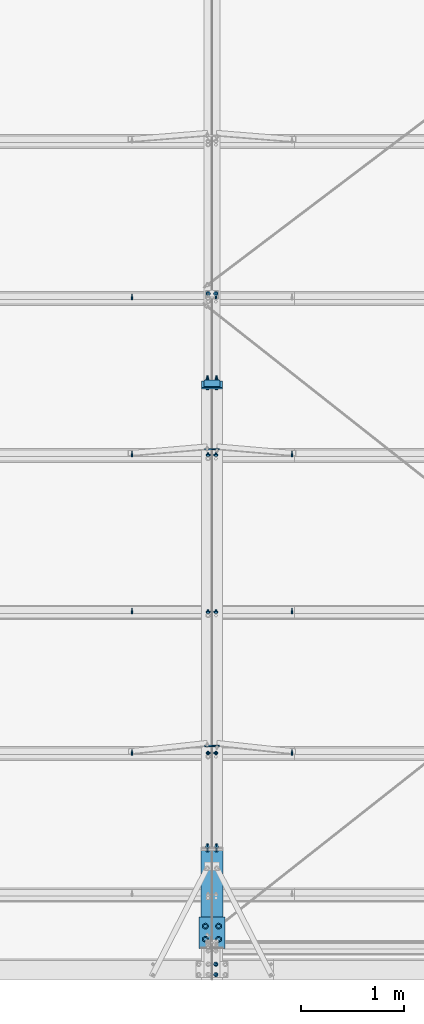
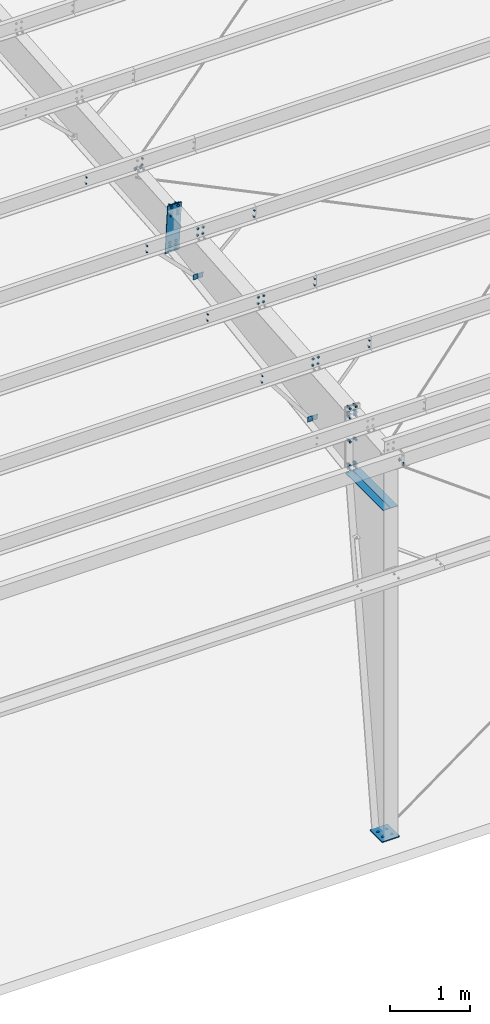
# One storey, part 76 of 185: 22 mechanical fasteners, 9 discrete accessories, 12 elements without a shape of their own.
"""IFC2X3 building model written with IfcOpenShell, lengths in millimetres."""

from ifc_helpers import new_model, si_unit, frame, origin_with_axes, origin_2d_with_axis, place, context, subcontext, project, spatial, polyline, rectangle, circle, outline, extrude, source, transform, mapped, material, type_object, element, aggregate, save


model = new_model("IFC2X3")

# Units and contexts
model_context = context("Model", 3, precision=1e-05, world=origin_with_axes())
body_context = subcontext(model_context, "Body", "Model", "MODEL_VIEW")
ifc_project = project(units=[si_unit("LENGTHUNIT", "METRE", prefix="MILLI"), si_unit("AREAUNIT", "SQUARE_METRE"), si_unit("VOLUMEUNIT", "CUBIC_METRE"), si_unit("MASSUNIT", "GRAM", prefix="KILO"), si_unit("TIMEUNIT", "SECOND"), si_unit("PLANEANGLEUNIT", "RADIAN"), si_unit("SOLIDANGLEUNIT", "STERADIAN"), si_unit("THERMODYNAMICTEMPERATUREUNIT", "DEGREE_CELSIUS"), si_unit("LUMINOUSINTENSITYUNIT", "LUMEN")], contexts=[model_context])

# Site, building, storey
site_placement = place(None, origin_with_axes())
site = spatial("IfcSite", under=ifc_project, at=site_placement, Name="Undefined", CompositionType="ELEMENT")
building_placement = place(site_placement, origin_with_axes())
building = spatial("IfcBuilding", under=site, at=building_placement, Name="Undefined", CompositionType="ELEMENT")
storey_placement = place(building_placement, origin_with_axes())
storey = spatial("IfcBuildingStorey", under=building, at=storey_placement, Name="Undefined", CompositionType="ELEMENT", Elevation=0.0)

# Assembly, discrete accessories
assembly_1_placement = place(storey_placement, origin_with_axes())
assembly_1 = element("IfcElementAssembly", 1, at=assembly_1_placement, inside=storey, Name="Steel Assembly", AssemblyPlace="NOTDEFINED", PredefinedType="RIGID_FRAME")
ifc_material_1 = material(Name="STEEL/55")
discrete_accessory_type_1 = type_object("IfcDiscreteAccessoryType", Name="Stiff")
discrete_accessory_1_placement = place(assembly_1_placement, frame((30153.76875, 312.674, 5067.48165112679), z_axis=(-1.0, 0.0, 0.0), x_axis=(0.0, 1.0, 0.0)))
discrete_accessory_1 = element("IfcDiscreteAccessory", 2, at=discrete_accessory_1_placement, type_object=discrete_accessory_type_1, material=ifc_material_1, Name="Stiff", ObjectType="FL3/8\"X4\"", context=body_context, shape_type="SweptSolid", body=[
    extrude(rectangle(XDim=9.525, YDim=101.6, at=origin_2d_with_axis()), frame((939.799999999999, 0.0, 0.0), z_axis=(-1.0, 0.0, 0.0), x_axis=(0.0, -1.0, 0.0)), (0.0, 0.0, 1.0), 939.8),
])
discrete_accessory_2_placement = place(assembly_1_placement, frame((30044.23125, 312.674, 5067.48165112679), z_axis=(-1.0, 0.0, 0.0), x_axis=(0.0, 1.0, 0.0)))
discrete_accessory_2 = element("IfcDiscreteAccessory", 3, at=discrete_accessory_2_placement, type_object=discrete_accessory_type_1, material=ifc_material_1, Name="Stiff", ObjectType="FL3/8\"X4\"", context=body_context, shape_type="SweptSolid", body=[
    extrude(rectangle(XDim=9.525, YDim=101.6, at=origin_2d_with_axis()), frame((939.799999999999, 0.0, 0.0), z_axis=(-1.0, 0.0, 0.0), x_axis=(0.0, -1.0, 0.0)), (0.0, 0.0, 1.0), 939.8),
])

# Assembly, mechanical fastener
assembly_2_placement = place(storey_placement, origin_with_axes())
assembly_2 = element("IfcElementAssembly", 4, at=assembly_2_placement, inside=storey, Name="Steel Assembly", AssemblyPlace="NOTDEFINED", PredefinedType="RIGID_FRAME")
ifc_material_2 = material(Name="Undefined")
discrete_accessory_type_2 = type_object("IfcDiscreteAccessoryType", Name="Bolt assembly")
shared_shape_1 = source(origin_with_axes(), body_context, "Body", "SweptSolid", [
    extrude(circle(Radius=7.14374971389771, at=origin_2d_with_axis()), frame((0.0, -1.59000001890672, 0.0), z_axis=(0.0, 1.0, 0.0), x_axis=(1.0, 0.0, 0.0)), (0.0, 0.0, 1.0), 3.3),
    extrude(circle(Radius=13.4937496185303, at=origin_2d_with_axis()), frame((0.0, -5.5587500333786, 0.0), z_axis=(0.0, 1.0, 0.0), x_axis=(1.0, 0.0, 0.0)), (0.0, 0.0, 1.0), 4.0),
    extrude(circle(Radius=22.2250003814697, at=origin_2d_with_axis()), frame((0.0, 1.5900000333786, 0.0), z_axis=(0.0, 1.0, 0.0), x_axis=(1.0, 0.0, 0.0)), (0.0, 0.0, 1.0), 7.9),
    extrude(outline(polyline([(12.8316099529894, 0.0), (6.4158049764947, 11.1125001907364), (-6.4158049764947, 11.1125001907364), (-12.8316099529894, 0.0), (-6.4158049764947, -11.1125001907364), (6.4158049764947, -11.1125001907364), (12.8316099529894, 0.0)])), frame((0.0, 9.5275000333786, 0.0), z_axis=(0.0, 1.0, 0.0), x_axis=(1.0, 0.0, 0.0)), (0.0, 0.0, 1.0), 12.3),
])
mechanical_fastener_1_placement = place(assembly_2_placement, frame((30137.1, 5071.32183882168, 6467.63407037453), z_axis=(1.0, 0.0, 0.0), x_axis=(0.0, 0.0830454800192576, -0.996545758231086)))
mechanical_fastener_1 = element("IfcMechanicalFastener", 5, at=mechanical_fastener_1_placement, type_object=discrete_accessory_type_2, material=ifc_material_2, Name="Bolt assembly", NominalDiameter=12.6999998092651, NominalLength=38.0999984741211, context=body_context, shape_type="MappedRepresentation", body=[
    mapped(shared_shape_1, transform((0.0, 0.0, 0.0))),
    mapped(shared_shape_1, transform((101.599998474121, 0.0, 0.0))),
])
aggregate(assembly_2, [mechanical_fastener_1])

assembly_3_placement = place(storey_placement, origin_with_axes())
assembly_3 = element("IfcElementAssembly", 6, at=assembly_3_placement, inside=storey, Name="Steel Assembly", AssemblyPlace="NOTDEFINED", PredefinedType="RIGID_FRAME")
mechanical_fastener_2_placement = place(assembly_3_placement, frame((30060.9, 5071.32183882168, 6467.63407037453), z_axis=(1.0, 0.0, 0.0), x_axis=(0.0, 0.0830454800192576, -0.996545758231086)))
mechanical_fastener_2 = element("IfcMechanicalFastener", 7, at=mechanical_fastener_2_placement, type_object=discrete_accessory_type_2, material=ifc_material_2, Name="Bolt assembly", NominalDiameter=12.6999998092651, NominalLength=38.0999984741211, context=body_context, shape_type="MappedRepresentation", body=[
    mapped(shared_shape_1, transform((0.0, 0.0, 0.0))),
    mapped(shared_shape_1, transform((101.599998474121, 0.0, 0.0))),
])

assembly_4_placement = place(storey_placement, origin_with_axes())
assembly_4 = element("IfcElementAssembly", 8, at=assembly_4_placement, inside=storey, Name="Steel Assembly", AssemblyPlace="NOTDEFINED", PredefinedType="RIGID_FRAME")
mechanical_fastener_3_placement = place(assembly_4_placement, frame((30137.1, 3552.58610327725, 6341.07275882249), z_axis=(1.0, 0.0, 0.0), x_axis=(0.0, 0.0830454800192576, -0.996545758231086)))
mechanical_fastener_3 = element("IfcMechanicalFastener", 9, at=mechanical_fastener_3_placement, type_object=discrete_accessory_type_2, material=ifc_material_2, Name="Bolt assembly", NominalDiameter=12.6999998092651, NominalLength=38.0999984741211, context=body_context, shape_type="MappedRepresentation", body=[
    mapped(shared_shape_1, transform((0.0, 0.0, 0.0))),
    mapped(shared_shape_1, transform((101.599998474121, 0.0, 0.0))),
])
aggregate(assembly_4, [mechanical_fastener_3])

assembly_5_placement = place(storey_placement, origin_with_axes())
assembly_5 = element("IfcElementAssembly", 10, at=assembly_5_placement, inside=storey, Name="Steel Assembly", AssemblyPlace="NOTDEFINED", PredefinedType="RIGID_FRAME")
mechanical_fastener_4_placement = place(assembly_5_placement, frame((30060.9, 3552.58610327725, 6341.07275882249), z_axis=(1.0, 0.0, 0.0), x_axis=(0.0, 0.0830454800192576, -0.996545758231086)))
mechanical_fastener_4 = element("IfcMechanicalFastener", 11, at=mechanical_fastener_4_placement, type_object=discrete_accessory_type_2, material=ifc_material_2, Name="Bolt assembly", NominalDiameter=12.6999998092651, NominalLength=38.0999984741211, context=body_context, shape_type="MappedRepresentation", body=[
    mapped(shared_shape_1, transform((0.0, 0.0, 0.0))),
    mapped(shared_shape_1, transform((101.599998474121, 0.0, 0.0))),
])

assembly_6_placement = place(storey_placement, origin_with_axes())
assembly_6 = element("IfcElementAssembly", 12, at=assembly_6_placement, inside=storey, Name="Steel Assembly", AssemblyPlace="NOTDEFINED", PredefinedType="RIGID_FRAME")
mechanical_fastener_5_placement = place(assembly_6_placement, frame((30137.1, 2185.7239412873, 6227.16757842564), z_axis=(1.0, 0.0, 0.0), x_axis=(0.0, 0.0830454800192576, -0.996545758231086)))
mechanical_fastener_5 = element("IfcMechanicalFastener", 13, at=mechanical_fastener_5_placement, type_object=discrete_accessory_type_2, material=ifc_material_2, Name="Bolt assembly", NominalDiameter=12.6999998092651, NominalLength=38.0999984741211, context=body_context, shape_type="MappedRepresentation", body=[
    mapped(shared_shape_1, transform((0.0, 0.0, 0.0))),
    mapped(shared_shape_1, transform((101.599998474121, 0.0, 0.0))),
])
aggregate(assembly_6, [mechanical_fastener_5])

assembly_7_placement = place(storey_placement, origin_with_axes())
assembly_7 = element("IfcElementAssembly", 14, at=assembly_7_placement, inside=storey, Name="Steel Assembly", AssemblyPlace="NOTDEFINED", PredefinedType="RIGID_FRAME")
mechanical_fastener_6_placement = place(assembly_7_placement, frame((30060.9, 2185.7239412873, 6227.16757842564), z_axis=(1.0, 0.0, 0.0), x_axis=(0.0, 0.0830454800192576, -0.996545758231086)))
mechanical_fastener_6 = element("IfcMechanicalFastener", 15, at=mechanical_fastener_6_placement, type_object=discrete_accessory_type_2, material=ifc_material_2, Name="Bolt assembly", NominalDiameter=12.6999998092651, NominalLength=38.0999984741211, context=body_context, shape_type="MappedRepresentation", body=[
    mapped(shared_shape_1, transform((0.0, 0.0, 0.0))),
    mapped(shared_shape_1, transform((101.599998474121, 0.0, 0.0))),
])

# Discrete accessory
discrete_accessory_type_3 = type_object("IfcDiscreteAccessoryType", Name="Base Plate")
discrete_accessory_3_placement = place(assembly_1_placement, frame((30099.0, 304.8, 7.93749999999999), z_axis=(1.0, 0.0, 0.0), x_axis=(0.0, 1.0, 0.0)))
discrete_accessory_3 = element("IfcDiscreteAccessory", 16, at=discrete_accessory_3_placement, type_object=discrete_accessory_type_3, material=ifc_material_1, Name="Base Plate", ObjectType="FL5/8\"X10\"", context=body_context, shape_type="SweptSolid", body=[
    extrude(rectangle(XDim=15.875, YDim=254.0, at=origin_2d_with_axis()), frame((304.909695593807, 0.0, 0.0), z_axis=(-1.0, 0.0, 0.0), x_axis=(0.0, -1.0, 0.0)), (0.0, 0.0, 1.0), 304.9),
])

# Assembly, discrete accessories
assembly_8_placement = place(storey_placement, origin_with_axes())
assembly_8 = element("IfcElementAssembly", 17, at=assembly_8_placement, inside=storey, Name="Steel Assembly", AssemblyPlace="NOTDEFINED", PredefinedType="RIGID_FRAME")
discrete_accessory_type_4 = type_object("IfcDiscreteAccessoryType", Name="FLANGE BRACE FLIP")
discrete_accessory_4_placement = place(assembly_8_placement, frame((30101.381, 5133.6523214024, 5699.10123572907), z_axis=(0.0, -0.0830454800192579, 0.996545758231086), x_axis=(1.0, 0.0, 0.0)))
discrete_accessory_4 = element("IfcDiscreteAccessory", 18, at=discrete_accessory_4_placement, type_object=discrete_accessory_type_4, material=ifc_material_1, Name="FLANGE BRACE FLIP", ObjectType="PL1/8\"X2 3/4\"", context=body_context, shape_type="SweptSolid", body=[
    extrude(rectangle(XDim=3.416, YDim=85.725, at=origin_2d_with_axis()), frame((69.8499999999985, 0.0, 0.0), z_axis=(-1.0, 0.0, 0.0), x_axis=(0.0, -1.0, 0.0)), (0.0, 0.0, 1.0), 69.8),
])
discrete_accessory_5_placement = place(assembly_8_placement, frame((30096.619, 5133.6523214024, 5699.10123572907), z_axis=(0.0, -0.0830454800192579, 0.996545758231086), x_axis=(-1.0, 0.0, 0.0)))
discrete_accessory_5 = element("IfcDiscreteAccessory", 19, at=discrete_accessory_5_placement, type_object=discrete_accessory_type_4, material=ifc_material_1, Name="FLANGE BRACE FLIP", ObjectType="PL1/8\"X2 3/4\"", context=body_context, shape_type="SweptSolid", body=[
    extrude(rectangle(XDim=3.416, YDim=85.725, at=origin_2d_with_axis()), frame((69.8499999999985, 0.0, 0.0), z_axis=(-1.0, 0.0, 0.0), x_axis=(0.0, -1.0, 0.0)), (0.0, 0.0, 1.0), 69.8),
])
discrete_accessory_6_placement = place(assembly_8_placement, frame((30101.381, 2264.17630960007, 5265.17211501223), z_axis=(0.0, -0.0830454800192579, 0.996545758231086), x_axis=(1.0, 0.0, 0.0)))
discrete_accessory_6 = element("IfcDiscreteAccessory", 20, at=discrete_accessory_6_placement, type_object=discrete_accessory_type_4, material=ifc_material_1, Name="FLANGE BRACE FLIP", ObjectType="PL1/8\"X2 3/4\"", context=body_context, shape_type="SweptSolid", body=[
    extrude(rectangle(XDim=3.416, YDim=85.725, at=origin_2d_with_axis()), frame((69.8499999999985, 0.0, 0.0), z_axis=(-1.0, 0.0, 0.0), x_axis=(0.0, -1.0, 0.0)), (0.0, 0.0, 1.0), 69.8),
])
discrete_accessory_7_placement = place(assembly_8_placement, frame((30096.619, 2264.17630960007, 5265.17211501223), z_axis=(0.0, -0.0830454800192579, 0.996545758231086), x_axis=(-1.0, 0.0, 0.0)))
discrete_accessory_7 = element("IfcDiscreteAccessory", 21, at=discrete_accessory_7_placement, type_object=discrete_accessory_type_4, material=ifc_material_1, Name="FLANGE BRACE FLIP", ObjectType="PL1/8\"X2 3/4\"", context=body_context, shape_type="SweptSolid", body=[
    extrude(rectangle(XDim=3.416, YDim=85.725, at=origin_2d_with_axis()), frame((69.8499999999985, 0.0, 0.0), z_axis=(-1.0, 0.0, 0.0), x_axis=(0.0, -1.0, 0.0)), (0.0, 0.0, 1.0), 69.8),
])

# Assembly, mechanical fastener
assembly_9_placement = place(storey_placement, origin_with_axes())
assembly_9 = element("IfcElementAssembly", 22, at=assembly_9_placement, inside=storey, Name="Steel Assembly", AssemblyPlace="NOTDEFINED", PredefinedType="RIGID_FRAME")
shared_shape_2 = source(origin_with_axes(), body_context, "Body", "SweptSolid", [
    extrude(circle(Radius=7.14374971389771, at=origin_2d_with_axis()), frame((0.0, -4.65999985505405, 0.0), z_axis=(0.0, 1.0, 0.0), x_axis=(1.0, 0.0, 0.0)), (0.0, 0.0, 1.0), 4.8),
    extrude(circle(Radius=7.14374971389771, at=origin_2d_with_axis()), frame((0.0, -0.0238014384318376, 0.0), z_axis=(0.0, 1.0, 0.0), x_axis=(1.0, 0.0, 0.0)), (0.0, 0.0, 1.0), 8.0),
    extrude(outline(polyline([(12.8316099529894, 0.0), (6.4158049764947, 11.1125001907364), (-6.4158049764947, 11.1125001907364), (-12.8316099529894, 0.0), (-6.4158049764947, -11.1125001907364), (6.4158049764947, -11.1125001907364), (12.8316099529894, 0.0)])), frame((0.0, -12.697499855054, 0.0), z_axis=(0.0, 1.0, 0.0), x_axis=(1.0, 0.0, 0.0)), (0.0, 0.0, 1.0), 7.9),
    extrude(circle(Radius=6.34999990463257, at=origin_2d_with_axis()), frame((0.0, -4.75999985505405, 0.0), z_axis=(0.0, 1.0, 0.0), x_axis=(1.0, 0.0, 0.0)), (0.0, 0.0, 1.0), 50.8),
    extrude(circle(Radius=22.2250003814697, at=origin_2d_with_axis()), frame((0.0, 7.95019856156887, 0.0), z_axis=(0.0, 1.0, 0.0), x_axis=(1.0, 0.0, 0.0)), (0.0, 0.0, 1.0), 7.9),
    extrude(outline(polyline([(12.8316099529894, 0.0), (6.4158049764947, 11.1125001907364), (-6.4158049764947, 11.1125001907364), (-12.8316099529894, 0.0), (-6.4158049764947, -11.1125001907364), (6.4158049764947, -11.1125001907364), (12.8316099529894, 0.0)])), frame((0.0, 15.8876985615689, 0.0), z_axis=(0.0, 1.0, 0.0), x_axis=(1.0, 0.0, 0.0)), (0.0, 0.0, 1.0), 12.3),
])
mechanical_fastener_7_placement = place(assembly_9_placement, frame((30099.0, 6640.68209888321, 6445.4858411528), z_axis=(-1.0, 0.0, 0.0), x_axis=(0.0, 0.996545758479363, 0.0830454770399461)))
mechanical_fastener_7 = element("IfcMechanicalFastener", 23, at=mechanical_fastener_7_placement, type_object=discrete_accessory_type_2, material=ifc_material_2, Name="Bolt assembly", NominalDiameter=12.6999998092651, NominalLength=50.7999992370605, context=body_context, shape_type="MappedRepresentation", body=[
    mapped(shared_shape_2, transform((0.0, 0.0, -38.0999984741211))),
    mapped(shared_shape_2, transform((0.0, 0.0, 38.0999984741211))),
])

assembly_10_placement = place(storey_placement, origin_with_axes())
assembly_10 = element("IfcElementAssembly", 24, at=assembly_10_placement, inside=storey, Name="Steel Assembly", AssemblyPlace="NOTDEFINED", PredefinedType="RIGID_FRAME")
shared_shape_3 = source(origin_with_axes(), body_context, "Body", "SweptSolid", [
    extrude(circle(Radius=7.14374971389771, at=origin_2d_with_axis()), frame((0.0, 0.0, 0.0), z_axis=(0.0, 1.0, 0.0), x_axis=(1.0, 0.0, 0.0)), (0.0, 0.0, 1.0), 4.9),
    extrude(outline(polyline([(12.8316099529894, 0.0), (6.4158049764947, 11.1125001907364), (-6.4158049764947, 11.1125001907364), (-12.8316099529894, 0.0), (-6.4158049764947, -11.1125001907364), (6.4158049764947, -11.1125001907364), (12.8316099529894, 0.0)])), frame((0.0, 4.76000382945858, 0.0), z_axis=(0.0, 1.0, 0.0), x_axis=(1.0, 0.0, 0.0)), (0.0, 0.0, 1.0), 12.3),
])
mechanical_fastener_8_placement = place(assembly_10_placement, frame((30137.1, 6590.05757436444, 6594.19538192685), z_axis=(1.0, 0.0, 0.0), x_axis=(0.0, 0.0830454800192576, -0.996545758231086)))
mechanical_fastener_8 = element("IfcMechanicalFastener", 25, at=mechanical_fastener_8_placement, type_object=discrete_accessory_type_2, material=ifc_material_2, Name="Bolt assembly", NominalDiameter=12.6999998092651, NominalLength=50.7999992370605, context=body_context, shape_type="MappedRepresentation", body=[
    mapped(shared_shape_3, transform((0.0, 0.0, 0.0))),
    mapped(shared_shape_3, transform((101.599998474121, 0.0, 0.0))),
])
aggregate(assembly_10, [mechanical_fastener_8])

assembly_11_placement = place(storey_placement, origin_with_axes())
assembly_11 = element("IfcElementAssembly", 26, at=assembly_11_placement, inside=storey, Name="Steel Assembly", AssemblyPlace="NOTDEFINED", PredefinedType="RIGID_FRAME")
shared_shape_4 = source(origin_with_axes(), body_context, "Body", "SweptSolid", [
    extrude(circle(Radius=7.14374971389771, at=origin_2d_with_axis()), frame((0.0, -1.4900000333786, 0.0), z_axis=(0.0, 1.0, 0.0), x_axis=(1.0, 0.0, 0.0)), (0.0, 0.0, 1.0), 3.2),
    extrude(circle(Radius=7.14374971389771, at=origin_2d_with_axis()), frame((0.0, -1.4900000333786, 0.0), z_axis=(0.0, 1.0, 0.0), x_axis=(1.0, 0.0, 0.0)), (0.0, 0.0, 1.0), 3.2),
    extrude(outline(polyline([(10.9985221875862, 0.0), (5.4992610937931, 9.52499961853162), (-5.4992610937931, 9.52499961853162), (-10.9985221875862, 0.0), (-5.4992610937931, -9.52499961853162), (5.4992610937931, -9.52499961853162), (10.9985221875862, 0.0)])), frame((0.0, -11.1149996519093, 0.0), z_axis=(0.0, 1.0, 0.0), x_axis=(1.0, 0.0, 0.0)), (0.0, 0.0, 1.0), 9.5),
    extrude(circle(Radius=6.34999990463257, at=origin_2d_with_axis()), frame((0.0, -1.59000001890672, 0.0), z_axis=(0.0, 1.0, 0.0), x_axis=(1.0, 0.0, 0.0)), (0.0, 0.0, 1.0), 38.1),
    extrude(outline(polyline([(12.8316099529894, 0.0), (6.4158049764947, 11.1125001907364), (-6.4158049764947, 11.1125001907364), (-12.8316099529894, 0.0), (-6.4158049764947, -11.1125001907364), (6.4158049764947, -11.1125001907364), (12.8316099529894, 0.0)])), frame((0.0, 1.5900000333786, 0.0), z_axis=(0.0, 1.0, 0.0), x_axis=(1.0, 0.0, 0.0)), (0.0, 0.0, 1.0), 12.3),
])
mechanical_fastener_9_placement = place(assembly_11_placement, frame((29324.3, 6590.05757436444, 6594.19538192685), z_axis=(1.0, 0.0, 0.0), x_axis=(0.0, 0.0830454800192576, -0.996545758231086)))
mechanical_fastener_9 = element("IfcMechanicalFastener", 27, at=mechanical_fastener_9_placement, type_object=discrete_accessory_type_2, material=ifc_material_2, Name="Bolt assembly", NominalDiameter=12.6999998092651, NominalLength=38.0999984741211, context=body_context, shape_type="MappedRepresentation", body=[
    mapped(shared_shape_4, transform((0.0, 0.0, 0.0))),
    mapped(shared_shape_4, transform((101.599998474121, 0.0, 0.0))),
])
aggregate(assembly_11, [mechanical_fastener_9])

# Mechanical fastener
mechanical_fastener_10_placement = place(assembly_3_placement, frame((30873.7, 5071.32183882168, 6467.63407037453), z_axis=(1.0, 0.0, 0.0), x_axis=(0.0, 0.0830454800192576, -0.996545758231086)))
mechanical_fastener_10 = element("IfcMechanicalFastener", 28, at=mechanical_fastener_10_placement, type_object=discrete_accessory_type_2, material=ifc_material_2, Name="Bolt assembly", NominalDiameter=12.6999998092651, NominalLength=38.0999984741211, context=body_context, shape_type="MappedRepresentation", body=[
    mapped(shared_shape_4, transform((0.0, 0.0, 0.0))),
    mapped(shared_shape_4, transform((101.599998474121, 0.0, 0.0))),
])

mechanical_fastener_11_placement = place(assembly_3_placement, frame((29324.3, 5071.32183882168, 6467.63407037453), z_axis=(1.0, 0.0, 0.0), x_axis=(0.0, 0.0830454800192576, -0.996545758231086)))
mechanical_fastener_11 = element("IfcMechanicalFastener", 29, at=mechanical_fastener_11_placement, type_object=discrete_accessory_type_2, material=ifc_material_2, Name="Bolt assembly", NominalDiameter=12.6999998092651, NominalLength=38.0999984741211, context=body_context, shape_type="MappedRepresentation", body=[
    mapped(shared_shape_4, transform((0.0, 0.0, 0.0))),
    mapped(shared_shape_4, transform((101.599998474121, 0.0, 0.0))),
])

aggregate(assembly_3, [mechanical_fastener_2, mechanical_fastener_10, mechanical_fastener_11])

mechanical_fastener_12_placement = place(assembly_5_placement, frame((30873.7, 3552.58610327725, 6341.07275882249), z_axis=(1.0, 0.0, 0.0), x_axis=(0.0, 0.0830454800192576, -0.996545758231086)))
mechanical_fastener_12 = element("IfcMechanicalFastener", 30, at=mechanical_fastener_12_placement, type_object=discrete_accessory_type_2, material=ifc_material_2, Name="Bolt assembly", NominalDiameter=12.6999998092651, NominalLength=38.0999984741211, context=body_context, shape_type="MappedRepresentation", body=[
    mapped(shared_shape_4, transform((0.0, 0.0, 0.0))),
    mapped(shared_shape_4, transform((101.599998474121, 0.0, 0.0))),
])

mechanical_fastener_13_placement = place(assembly_5_placement, frame((29324.3, 3552.58610327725, 6341.07275882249), z_axis=(1.0, 0.0, 0.0), x_axis=(0.0, 0.0830454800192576, -0.996545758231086)))
mechanical_fastener_13 = element("IfcMechanicalFastener", 31, at=mechanical_fastener_13_placement, type_object=discrete_accessory_type_2, material=ifc_material_2, Name="Bolt assembly", NominalDiameter=12.6999998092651, NominalLength=38.0999984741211, context=body_context, shape_type="MappedRepresentation", body=[
    mapped(shared_shape_4, transform((0.0, 0.0, 0.0))),
    mapped(shared_shape_4, transform((101.599998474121, 0.0, 0.0))),
])

aggregate(assembly_5, [mechanical_fastener_4, mechanical_fastener_12, mechanical_fastener_13])

mechanical_fastener_14_placement = place(assembly_7_placement, frame((30873.7, 2185.7239412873, 6227.16757842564), z_axis=(1.0, 0.0, 0.0), x_axis=(0.0, 0.0830454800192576, -0.996545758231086)))
mechanical_fastener_14 = element("IfcMechanicalFastener", 32, at=mechanical_fastener_14_placement, type_object=discrete_accessory_type_2, material=ifc_material_2, Name="Bolt assembly", NominalDiameter=12.6999998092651, NominalLength=38.0999984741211, context=body_context, shape_type="MappedRepresentation", body=[
    mapped(shared_shape_4, transform((0.0, 0.0, 0.0))),
    mapped(shared_shape_4, transform((101.599998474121, 0.0, 0.0))),
])

mechanical_fastener_15_placement = place(assembly_7_placement, frame((29324.3, 2185.7239412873, 6227.16757842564), z_axis=(1.0, 0.0, 0.0), x_axis=(0.0, 0.0830454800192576, -0.996545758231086)))
mechanical_fastener_15 = element("IfcMechanicalFastener", 33, at=mechanical_fastener_15_placement, type_object=discrete_accessory_type_2, material=ifc_material_2, Name="Bolt assembly", NominalDiameter=12.6999998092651, NominalLength=38.0999984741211, context=body_context, shape_type="MappedRepresentation", body=[
    mapped(shared_shape_4, transform((0.0, 0.0, 0.0))),
    mapped(shared_shape_4, transform((101.599998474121, 0.0, 0.0))),
])

aggregate(assembly_7, [mechanical_fastener_6, mechanical_fastener_14, mechanical_fastener_15])

shared_shape_5 = source(origin_with_axes(), body_context, "Body", "SweptSolid", [
    extrude(circle(Radius=10.3187494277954, at=origin_2d_with_axis()), frame((0.0, -0.1, 0.0), z_axis=(0.0, 1.0, 0.0), x_axis=(1.0, 0.0, 0.0)), (0.0, 0.0, 1.0), 15.8),
    extrude(circle(Radius=10.3187494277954, at=origin_2d_with_axis()), frame((0.0, -15.775, 0.0), z_axis=(0.0, 1.0, 0.0), x_axis=(1.0, 0.0, 0.0)), (0.0, 0.0, 1.0), 15.9),
    extrude(outline(polyline([(18.3308710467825, 0.0), (9.16543552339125, 15.8750000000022), (-9.16543552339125, 15.8750000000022), (-18.3308710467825, 0.0), (-9.16543552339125, -15.8750000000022), (9.16543552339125, -15.8750000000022), (18.3308710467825, 0.0)])), frame((0.0, -27.78125, 0.0), z_axis=(0.0, 1.0, 0.0), x_axis=(1.0, 0.0, 0.0)), (0.0, 0.0, 1.0), 11.9),
    extrude(circle(Radius=9.52499961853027, at=origin_2d_with_axis()), frame((0.0, -15.8750000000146, 0.0), z_axis=(0.0, 1.0, 0.0), x_axis=(1.0, 0.0, 0.0)), (0.0, 0.0, 1.0), 69.8),
    extrude(circle(Radius=22.2250003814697, at=origin_2d_with_axis()), frame((0.0, 15.7480000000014, 0.0), z_axis=(0.0, 1.0, 0.0), x_axis=(1.0, 0.0, 0.0)), (0.0, 0.0, 1.0), 7.9),
    extrude(outline(polyline([(18.3308710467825, 0.0), (9.16543552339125, 15.8750000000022), (-9.16543552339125, 15.8750000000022), (-18.3308710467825, 0.0), (-9.16543552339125, -15.8750000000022), (9.16543552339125, -15.8750000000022), (18.3308710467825, 0.0)])), frame((0.0, 23.6855000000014, 0.0), z_axis=(0.0, 1.0, 0.0), x_axis=(1.0, 0.0, 0.0)), (0.0, 0.0, 1.0), 19.0),
])
mechanical_fastener_16_placement = place(assembly_1_placement, frame((30099.0, 1268.349, 5531.15865002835), z_axis=(1.0, 0.0, 0.0), x_axis=(0.0, 0.0, -1.0)))
mechanical_fastener_16 = element("IfcMechanicalFastener", 34, at=mechanical_fastener_16_placement, type_object=discrete_accessory_type_2, material=ifc_material_2, Name="Bolt assembly", NominalDiameter=19.0499992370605, NominalLength=69.8499984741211, context=body_context, shape_type="MappedRepresentation", body=[
    mapped(shared_shape_5, transform((0.0, 0.0, -44.4500007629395))),
    mapped(shared_shape_5, transform((0.0, 0.0, 44.4500007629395))),
])

mechanical_fastener_17_placement = place(assembly_1_placement, frame((30099.0, 1268.349, 5024.74615112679), z_axis=(-1.0, 0.0, 0.0), x_axis=(0.0, 0.0, 1.0)))
mechanical_fastener_17 = element("IfcMechanicalFastener", 35, at=mechanical_fastener_17_placement, type_object=discrete_accessory_type_2, material=ifc_material_2, Name="Bolt assembly", NominalDiameter=19.0499992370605, NominalLength=69.8499984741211, context=body_context, shape_type="MappedRepresentation", body=[
    mapped(shared_shape_5, transform((0.0, 0.0, -44.4500007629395))),
    mapped(shared_shape_5, transform((82.5500030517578, 0.0, -44.4500007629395))),
    mapped(shared_shape_5, transform((139.699996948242, 0.0, -44.4500007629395))),
    mapped(shared_shape_5, transform((0.0, 0.0, 44.4500007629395))),
    mapped(shared_shape_5, transform((82.5500030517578, 0.0, 44.4500007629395))),
    mapped(shared_shape_5, transform((139.699996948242, 0.0, 44.4500007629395))),
])

mechanical_fastener_18_placement = place(assembly_1_placement, frame((30099.0, 1268.349, 6037.57115112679), z_axis=(1.0, 0.0, 0.0), x_axis=(0.0, 0.0, -1.0)))
mechanical_fastener_18 = element("IfcMechanicalFastener", 36, at=mechanical_fastener_18_placement, type_object=discrete_accessory_type_2, material=ifc_material_2, Name="Bolt assembly", NominalDiameter=19.0499992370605, NominalLength=69.8499984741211, context=body_context, shape_type="MappedRepresentation", body=[
    mapped(shared_shape_5, transform((0.0, 0.0, -44.4500007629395))),
    mapped(shared_shape_5, transform((82.5500030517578, 0.0, -44.4500007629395))),
    mapped(shared_shape_5, transform((139.699996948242, 0.0, -44.4500007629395))),
    mapped(shared_shape_5, transform((0.0, 0.0, 44.4500007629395))),
    mapped(shared_shape_5, transform((82.5500030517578, 0.0, 44.4500007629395))),
    mapped(shared_shape_5, transform((139.699996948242, 0.0, 44.4500007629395))),
])

# Assembly, mechanical fastener
assembly_12_placement = place(storey_placement, origin_with_axes())
assembly_12 = element("IfcElementAssembly", 37, at=assembly_12_placement, inside=storey, Name="Steel Assembly", AssemblyPlace="NOTDEFINED", PredefinedType="RIGID_FRAME")
shared_shape_6 = source(origin_with_axes(), body_context, "Body", "SweptSolid", [
    extrude(circle(Radius=7.14499998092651, at=origin_2d_with_axis()), frame((0.0, -1.58749999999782, 0.0), z_axis=(0.0, 1.0, 0.0), x_axis=(1.0, 0.0, 0.0)), (0.0, 0.0, 1.0), 1.6),
    extrude(circle(Radius=7.14499998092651, at=origin_2d_with_axis()), frame((0.0, -7.8375000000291, 0.0), z_axis=(0.0, 1.0, 0.0), x_axis=(1.0, 0.0, 0.0)), (0.0, 0.0, 1.0), 6.4),
    extrude(circle(Radius=7.14499998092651, at=origin_2d_with_axis()), frame((0.0, -0.1, 0.0), z_axis=(0.0, 1.0, 0.0), x_axis=(1.0, 0.0, 0.0)), (0.0, 0.0, 1.0), 8.1),
    extrude(outline(polyline([(12.8316099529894, 0.0), (6.4158049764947, 11.1125001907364), (-6.4158049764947, 11.1125001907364), (-12.8316099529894, 0.0), (-6.4158049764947, -11.1125001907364), (6.4158049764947, -11.1125001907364), (12.8316099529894, 0.0)])), frame((0.0, -15.8750000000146, 0.0), z_axis=(0.0, 1.0, 0.0), x_axis=(1.0, 0.0, 0.0)), (0.0, 0.0, 1.0), 7.9),
    extrude(circle(Radius=6.34999990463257, at=origin_2d_with_axis()), frame((0.0, -7.93749389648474, 0.0), z_axis=(0.0, 1.0, 0.0), x_axis=(1.0, 0.0, 0.0)), (0.0, 0.0, 1.0), 50.8),
    extrude(circle(Radius=22.2250003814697, at=origin_2d_with_axis()), frame((0.0, 7.95019856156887, 0.0), z_axis=(0.0, 1.0, 0.0), x_axis=(1.0, 0.0, 0.0)), (0.0, 0.0, 1.0), 7.9),
    extrude(outline(polyline([(12.8316099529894, 0.0), (6.4158049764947, 11.1125001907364), (-6.4158049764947, 11.1125001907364), (-12.8316099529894, 0.0), (-6.4158049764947, -11.1125001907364), (6.4158049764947, -11.1125001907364), (12.8316099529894, 0.0)])), frame((0.0, 15.8876985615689, 0.0), z_axis=(0.0, 1.0, 0.0), x_axis=(1.0, 0.0, 0.0)), (0.0, 0.0, 1.0), 12.3),
])
mechanical_fastener_19_placement = place(assembly_12_placement, frame((30137.1, 50.6245237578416, 5896.31437545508), z_axis=(-1.0, 0.0, 0.0), x_axis=(0.0, 0.996545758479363, 0.0830454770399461)))
mechanical_fastener_19 = element("IfcMechanicalFastener", 38, at=mechanical_fastener_19_placement, type_object=discrete_accessory_type_2, material=ifc_material_2, Name="Bolt assembly", NominalDiameter=12.6999998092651, NominalLength=50.7999992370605, context=body_context, shape_type="MappedRepresentation", body=[
    mapped(shared_shape_6, transform((0.0, 0.0, 0.0))),
    mapped(shared_shape_6, transform((101.599998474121, 0.0, 0.0))),
])
aggregate(assembly_12, [mechanical_fastener_19])

# Discrete accessory
discrete_accessory_type_5 = type_object("IfcDiscreteAccessoryType", Name="Start Splice Plate")
discrete_accessory_8_placement = place(assembly_9_placement, frame((30099.0, 5736.98021246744, 6441.84972626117), z_axis=(1.0, 0.0, 0.0), x_axis=(0.0, 0.0830454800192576, -0.996545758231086)))
discrete_accessory_8 = element("IfcDiscreteAccessory", 39, at=discrete_accessory_8_placement, type_object=discrete_accessory_type_5, material=ifc_material_1, Name="Start Splice Plate", ObjectType="PL3/8\"X6\"", context=body_context, shape_type="SweptSolid", body=[
    extrude(rectangle(XDim=9.652, YDim=152.4, at=origin_2d_with_axis()), frame((768.349996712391, 0.0, 0.0), z_axis=(-1.0, 0.0, 0.0), x_axis=(0.0, -1.0, 0.0)), (0.0, 0.0, 1.0), 768.3),
])

aggregate(assembly_9, [mechanical_fastener_7, discrete_accessory_8])

discrete_accessory_type_6 = type_object("IfcDiscreteAccessoryType", Name="End Splice Plate")
discrete_accessory_9_placement = place(assembly_8_placement, frame((30099.0, 5725.84281707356, 6440.9216099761), z_axis=(1.0, 0.0, 0.0), x_axis=(0.0, 0.0830454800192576, -0.996545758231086)))
discrete_accessory_9 = element("IfcDiscreteAccessory", 40, at=discrete_accessory_9_placement, type_object=discrete_accessory_type_6, material=ifc_material_1, Name="End Splice Plate", ObjectType="FL1/2\"X8\"", context=body_context, shape_type="SweptSolid", body=[
    extrude(rectangle(XDim=12.7, YDim=203.2, at=origin_2d_with_axis()), frame((768.349996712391, 0.0, 0.0), z_axis=(-1.0, 0.0, 0.0), x_axis=(0.0, -1.0, 0.0)), (0.0, 0.0, 1.0), 768.3),
])

# Mechanical fastener
ifc_material_3 = material(Name="7990")
shared_shape_7 = source(origin_with_axes(), body_context, "Body", "SweptSolid", [
    extrude(circle(Radius=18.2562503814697, at=origin_2d_with_axis()), frame((0.0, -15.8750000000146, 0.0), z_axis=(0.0, 1.0, 0.0), x_axis=(1.0, 0.0, 0.0)), (0.0, 0.0, 1.0), 16.0),
    extrude(circle(Radius=28.575, at=origin_2d_with_axis()), frame((0.0, 0.0, 0.0), z_axis=(0.0, 1.0, 0.0), x_axis=(1.0, 0.0, 0.0)), (0.0, 0.0, 1.0), 10.5),
    extrude(outline(polyline([(30.4292459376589, 0.0), (15.2146229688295, 26.3525000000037), (-15.2146229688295, 26.3525000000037), (-30.4292459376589, 0.0), (-15.2146229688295, -26.3525000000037), (15.2146229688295, -26.3525000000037), (30.4292459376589, 0.0)])), frame((0.0, 10.4775, 0.0), z_axis=(0.0, 1.0, 0.0), x_axis=(1.0, 0.0, 0.0)), (0.0, 0.0, 1.0), 21.0),
])
mechanical_fastener_20_placement = place(assembly_1_placement, frame((30099.0, 393.700001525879, -1.06581410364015e-14), z_axis=(-1.0, 0.0, 0.0), x_axis=(0.0, 1.0, 0.0)))
mechanical_fastener_20 = element("IfcMechanicalFastener", 41, at=mechanical_fastener_20_placement, type_object=discrete_accessory_type_2, material=ifc_material_3, Name="Bolt assembly", NominalDiameter=31.75, NominalLength=15.875, context=body_context, shape_type="MappedRepresentation", body=[
    mapped(shared_shape_7, transform((0.0, 0.0, -63.5))),
    mapped(shared_shape_7, transform((127.0, 0.0, -63.5))),
    mapped(shared_shape_7, transform((0.0, 0.0, 63.5))),
    mapped(shared_shape_7, transform((127.0, 0.0, 63.5))),
])

aggregate(assembly_1, [mechanical_fastener_16, mechanical_fastener_17, mechanical_fastener_18, mechanical_fastener_20, discrete_accessory_1, discrete_accessory_2, discrete_accessory_3])

shared_shape_8 = source(origin_with_axes(), body_context, "Body", "SweptSolid", [
    extrude(circle(Radius=10.3187494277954, at=origin_2d_with_axis()), frame((0.0, -0.1, 0.0), z_axis=(0.0, 1.0, 0.0), x_axis=(1.0, 0.0, 0.0)), (0.0, 0.0, 1.0), 9.8),
    extrude(circle(Radius=10.3187494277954, at=origin_2d_with_axis()), frame((0.0, -12.5999999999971, 0.0), z_axis=(0.0, 1.0, 0.0), x_axis=(1.0, 0.0, 0.0)), (0.0, 0.0, 1.0), 12.7),
    extrude(outline(polyline([(18.3308710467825, 0.0), (9.16543552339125, 15.8750000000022), (-9.16543552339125, 15.8750000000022), (-18.3308710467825, 0.0), (-9.16543552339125, -15.8750000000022), (9.16543552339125, -15.8750000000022), (18.3308710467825, 0.0)])), frame((0.0, -24.6062499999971, 0.0), z_axis=(0.0, 1.0, 0.0), x_axis=(1.0, 0.0, 0.0)), (0.0, 0.0, 1.0), 11.9),
    extrude(circle(Radius=9.52499961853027, at=origin_2d_with_axis()), frame((0.0, -12.6999999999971, 0.0), z_axis=(0.0, 1.0, 0.0), x_axis=(1.0, 0.0, 0.0)), (0.0, 0.0, 1.0), 69.8),
    extrude(circle(Radius=22.2250003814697, at=origin_2d_with_axis()), frame((0.0, 9.65200009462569, 0.0), z_axis=(0.0, 1.0, 0.0), x_axis=(1.0, 0.0, 0.0)), (0.0, 0.0, 1.0), 7.9),
    extrude(outline(polyline([(18.3308710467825, 0.0), (9.16543552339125, 15.8750000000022), (-9.16543552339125, 15.8750000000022), (-18.3308710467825, 0.0), (-9.16543552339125, -15.8750000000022), (9.16543552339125, -15.8750000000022), (18.3308710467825, 0.0)])), frame((0.0, 17.5895000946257, 0.0), z_axis=(0.0, 1.0, 0.0), x_axis=(1.0, 0.0, 0.0)), (0.0, 0.0, 1.0), 19.0),
])
mechanical_fastener_21_placement = place(assembly_8_placement, frame((30099.0, 5793.342183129, 5707.39334435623), z_axis=(-1.0, 0.0, 0.0), x_axis=(0.0, -0.0830454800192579, 0.996545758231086)))
mechanical_fastener_21 = element("IfcMechanicalFastener", 42, at=mechanical_fastener_21_placement, type_object=discrete_accessory_type_2, material=ifc_material_2, Name="Bolt assembly", NominalDiameter=19.0499992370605, NominalLength=69.8499984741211, context=body_context, shape_type="MappedRepresentation", body=[
    mapped(shared_shape_8, transform((0.0, 0.0, -44.4500007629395))),
    mapped(shared_shape_8, transform((79.3750000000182, 6.18456397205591e-11, -44.4500007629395))),
    mapped(shared_shape_8, transform((136.524993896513, 1.0550138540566e-10, -44.4500007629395))),
    mapped(shared_shape_8, transform((0.0, 0.0, 44.4500007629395))),
    mapped(shared_shape_8, transform((79.3750000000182, 6.18456397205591e-11, 44.4500007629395))),
    mapped(shared_shape_8, transform((136.524993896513, 1.0550138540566e-10, 44.4500007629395))),
])

mechanical_fastener_22_placement = place(assembly_8_placement, frame((30099.0, 5734.80757653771, 6409.80862204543), z_axis=(1.0, 0.0, 0.0), x_axis=(0.0, 0.0830454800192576, -0.996545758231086)))
mechanical_fastener_22 = element("IfcMechanicalFastener", 43, at=mechanical_fastener_22_placement, type_object=discrete_accessory_type_2, material=ifc_material_2, Name="Bolt assembly", NominalDiameter=19.0499992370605, NominalLength=69.8499984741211, context=body_context, shape_type="MappedRepresentation", body=[
    mapped(shared_shape_8, transform((0.0, 0.0, -44.4500007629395))),
    mapped(shared_shape_8, transform((79.3750000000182, 6.18456397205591e-11, -44.4500007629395))),
    mapped(shared_shape_8, transform((136.524993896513, 1.0550138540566e-10, -44.4500007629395))),
    mapped(shared_shape_8, transform((0.0, 0.0, 44.4500007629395))),
    mapped(shared_shape_8, transform((79.3750000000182, 6.18456397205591e-11, 44.4500007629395))),
    mapped(shared_shape_8, transform((136.524993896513, 1.0550138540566e-10, 44.4500007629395))),
])

aggregate(assembly_8, [discrete_accessory_4, discrete_accessory_5, discrete_accessory_6, discrete_accessory_7, mechanical_fastener_21, mechanical_fastener_22, discrete_accessory_9])

save(model, "model.ifc")
